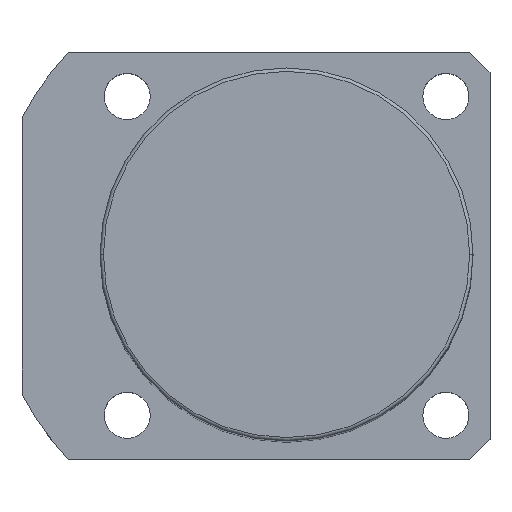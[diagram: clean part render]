
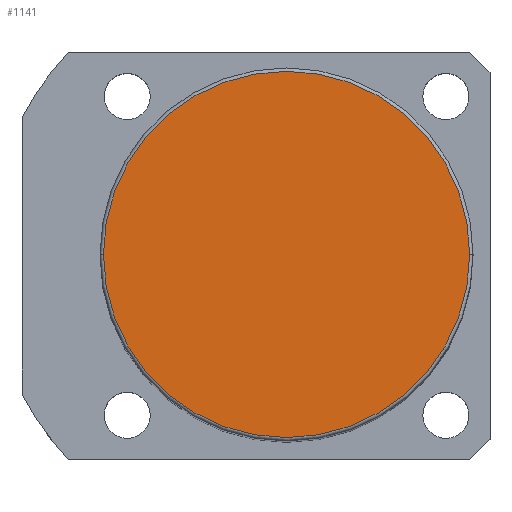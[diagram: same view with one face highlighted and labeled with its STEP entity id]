
A CAD part, top view. The second image highlights one B-rep face of the part: STEP entity #1141.
In plain terms, the highlighted planar face has unit normal (0, 0, 1).
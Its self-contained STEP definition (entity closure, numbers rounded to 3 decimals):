
#218 = FACE_OUTER_BOUND ( 'NONE', #2091, .T. ) ;
#340 = DIRECTION ( 'NONE',  ( 0., 0., 1. ) ) ;
#575 = DIRECTION ( 'NONE',  ( 1., 0., 0. ) ) ;
#587 = VERTEX_POINT ( 'NONE', #717 ) ;
#599 = CIRCLE ( 'NONE', #766, 27. ) ;
#675 = PLANE ( 'NONE',  #1679 ) ;
#683 = DIRECTION ( 'NONE',  ( 1., 0., 0. ) ) ;
#705 = EDGE_CURVE ( 'NONE', #587, #1403, #599, .T. ) ;
#717 = CARTESIAN_POINT ( 'NONE',  ( -27., 0., 131. ) ) ;
#764 = DIRECTION ( 'NONE',  ( 1., 0., 0. ) ) ;
#766 = AXIS2_PLACEMENT_3D ( 'NONE', #901, #1922, #764 ) ;
#901 = CARTESIAN_POINT ( 'NONE',  ( 0., 0., 131. ) ) ;
#1086 = CIRCLE ( 'NONE', #1464, 27. ) ;
#1130 = ORIENTED_EDGE ( 'NONE', *, *, #1421, .T. ) ;
#1141 = ADVANCED_FACE ( 'NONE', ( #218 ), #675, .T. ) ;
#1169 = CARTESIAN_POINT ( 'NONE',  ( 0., 0., 131. ) ) ;
#1306 = ORIENTED_EDGE ( 'NONE', *, *, #705, .T. ) ;
#1403 = VERTEX_POINT ( 'NONE', #1409 ) ;
#1409 = CARTESIAN_POINT ( 'NONE',  ( 27., 0., 131. ) ) ;
#1421 = EDGE_CURVE ( 'NONE', #1403, #587, #1086, .T. ) ;
#1464 = AXIS2_PLACEMENT_3D ( 'NONE', #1903, #1555, #575 ) ;
#1555 = DIRECTION ( 'NONE',  ( 0., 0., 1. ) ) ;
#1679 = AXIS2_PLACEMENT_3D ( 'NONE', #1169, #340, #683 ) ;
#1903 = CARTESIAN_POINT ( 'NONE',  ( 0., 0., 131. ) ) ;
#1922 = DIRECTION ( 'NONE',  ( 0., 0., 1. ) ) ;
#2091 = EDGE_LOOP ( 'NONE', ( #1130, #1306 ) ) ;
